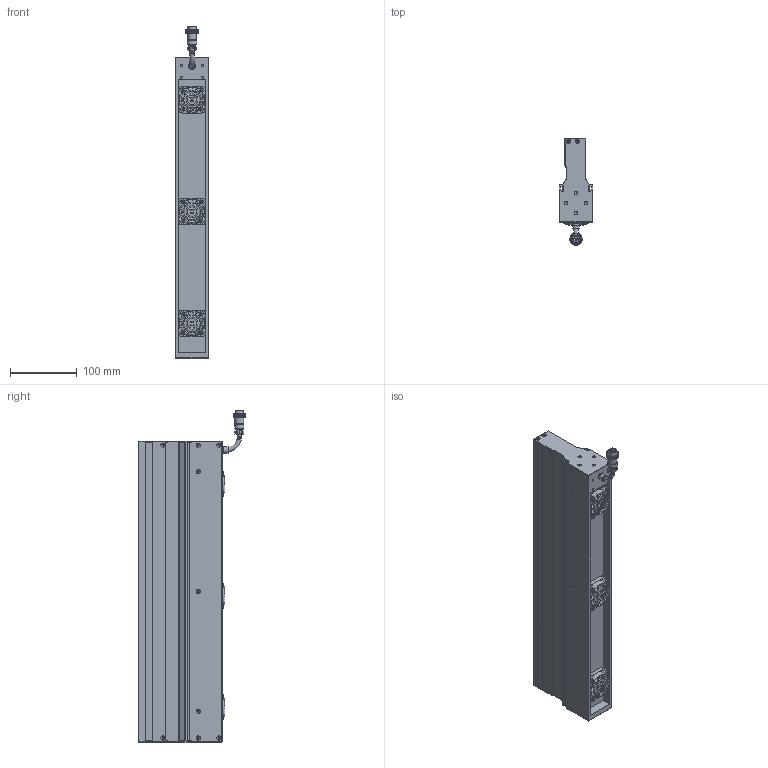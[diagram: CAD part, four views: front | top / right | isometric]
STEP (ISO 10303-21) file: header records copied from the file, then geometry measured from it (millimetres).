
FILE_DESCRIPTION (( 'STEP AP203' ), '1' );
FILE_NAME ('OPT-LSSC452-R-V3.1尨砩芞.STEP', '2025-02-05T06:46:26', ( 'USER' ), ( '' ), 'SwSTEP 2.0', 'SolidWorks 2016', '' );
FILE_SCHEMA (( 'CONFIG_CONTROL_DESIGN' ));
Length unit declared in the file: millimetre
Products named in the file (2): OPT-LSSC452-R-V3.1尨砩芞
Bounding box: 50 x 160.35 x 498.78 mm (x, y, z)
Volume: 1726906.2 mm3; surface area: 312803.5 mm2
Topology: 17 solids, 25 shells, 3975 faces, 8846 edges, 5009 vertices
Faces by surface type: bspline 2140, cylinder 833, plane 816, torus 119, cone 67
Full cylindrical faces by diameter (mm): 0.95 x6, 1.6 x12, 2 x7, 2.5 x22, 3.2 x16, 3.4 x24, 3.5 x4, 5 x8, 6.2 x12, 6.4 x3, 7.5 x1, 8.6 x1, 9.3 x1, 9.8 x1, 10 x1, 13.2 x1, 14 x1, 16.1 x1, 24.8 x3, 38 x3
Entity records: 133356 total; most frequent: CARTESIAN_POINT 65895, ORIENTED_EDGE 16996, EDGE_CURVE 8498, DIRECTION 7238, B_SPLINE_CURVE_WITH_KNOTS 5731, VERTEX_POINT 4924, EDGE_LOOP 4356, FACE_OUTER_BOUND 4165
